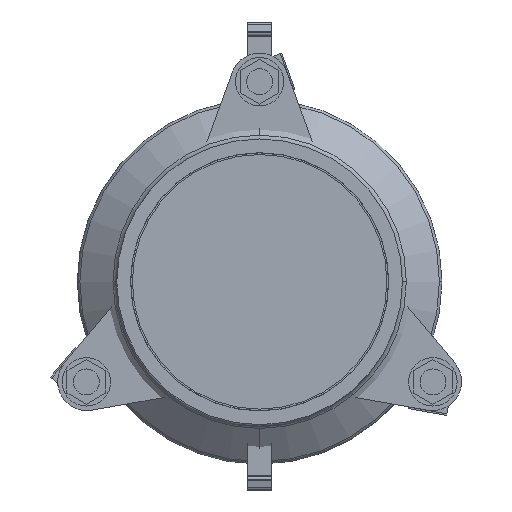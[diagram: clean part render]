
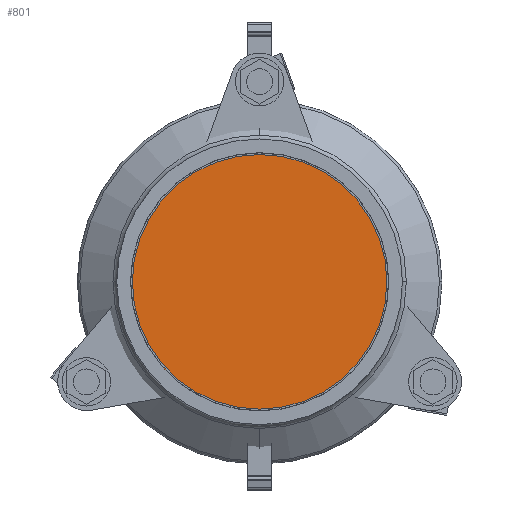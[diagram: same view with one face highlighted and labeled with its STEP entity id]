
A CAD part, left-side view. The second image highlights one B-rep face of the part: STEP entity #801.
In plain terms, the highlighted planar face has unit normal (-1, 0, 0).
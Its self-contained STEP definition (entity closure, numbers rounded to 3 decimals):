
#801=ADVANCED_FACE('',(#1623),#1624,.T.);
#1623=FACE_OUTER_BOUND('',#2720,.T.);
#1624=PLANE('',#2721);
#2720=EDGE_LOOP('',(#3961,#3962));
#2721=AXIS2_PLACEMENT_3D('',#3963,#3964,#3965);
#3961=ORIENTED_EDGE('',*,*,#6130,.T.);
#3962=ORIENTED_EDGE('',*,*,#6131,.T.);
#3963=CARTESIAN_POINT('',(104.0,0.0,0.));
#3964=DIRECTION('',(-1.0,0.0,0.));
#3965=DIRECTION('',(0.,0.0,-1.0));
#6130=EDGE_CURVE('',#7299,#7300,#7301,.T.);
#6131=EDGE_CURVE('',#7300,#7299,#7302,.T.);
#7299=VERTEX_POINT('',#8871);
#7300=VERTEX_POINT('',#8872);
#7301=CIRCLE('',#8873,90.0);
#7302=CIRCLE('',#8874,90.0);
#8871=CARTESIAN_POINT('',(104.0,0.0,-90.0));
#8872=CARTESIAN_POINT('',(104.0,0.,90.0));
#8873=AXIS2_PLACEMENT_3D('',#10420,#10421,#10422);
#8874=AXIS2_PLACEMENT_3D('',#10423,#10424,#10425);
#10420=CARTESIAN_POINT('',(104.0,0.0,0.));
#10421=DIRECTION('',(-1.0,0.0,0.));
#10422=DIRECTION('',(0.,0.0,-1.0));
#10423=CARTESIAN_POINT('',(104.0,0.0,0.));
#10424=DIRECTION('',(-1.0,0.0,0.));
#10425=DIRECTION('',(0.,0.0,-1.0));
